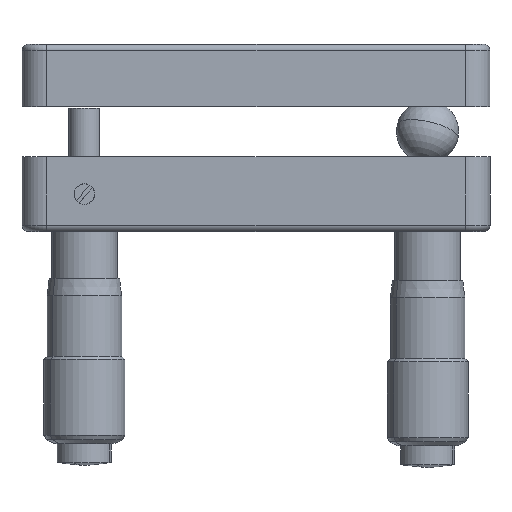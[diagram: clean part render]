
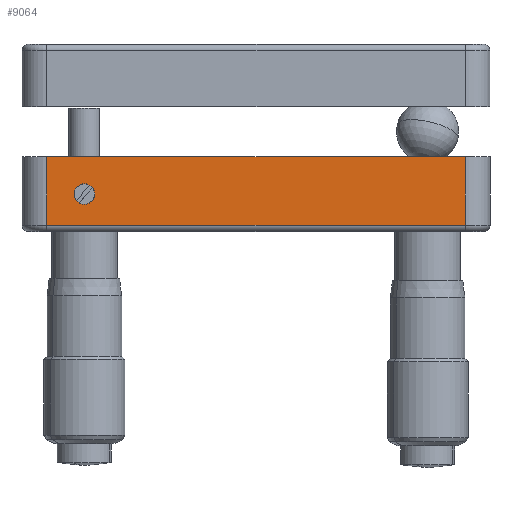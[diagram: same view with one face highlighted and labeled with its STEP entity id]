
A CAD part, left-side view. The second image highlights one B-rep face of the part: STEP entity #9064.
In plain terms, the highlighted planar face has unit normal (-1, 0, 0).
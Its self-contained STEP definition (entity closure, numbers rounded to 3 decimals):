
#489 = CARTESIAN_POINT ( 'NONE',  ( -62.5, -33.5, 6. ) ) ;
#742 = AXIS2_PLACEMENT_3D ( 'NONE', #8459, #3650, #7563 ) ;
#1414 = FACE_OUTER_BOUND ( 'NONE', #3432, .T. ) ;
#1596 = DIRECTION ( 'NONE',  ( 0., 0., 1. ) ) ;
#1647 = CARTESIAN_POINT ( 'NONE',  ( -62.5, -37.5, 6. ) ) ;
#1689 = CARTESIAN_POINT ( 'NONE',  ( -62.5, 33.5, 6. ) ) ;
#1693 = EDGE_CURVE ( 'NONE', #9165, #9040, #4300, .T. ) ;
#1944 = AXIS2_PLACEMENT_3D ( 'NONE', #2862, #10012, #1596 ) ;
#2414 = ORIENTED_EDGE ( 'NONE', *, *, #1693, .F. ) ;
#2426 = EDGE_CURVE ( 'NONE', #9652, #8070, #9383, .T. ) ;
#2509 = CARTESIAN_POINT ( 'NONE',  ( -62.5, -33.5, -5. ) ) ;
#2524 = VECTOR ( 'NONE', #7067, 1000. ) ;
#2585 = CARTESIAN_POINT ( 'NONE',  ( -62.5, -37.5, 6. ) ) ;
#2862 = CARTESIAN_POINT ( 'NONE',  ( -62.5, 27.5, 0. ) ) ;
#2941 = CARTESIAN_POINT ( 'NONE',  ( -62.5, -33.5, 6. ) ) ;
#3432 = EDGE_LOOP ( 'NONE', ( #6425, #8005, #8712, #5208 ) ) ;
#3650 = DIRECTION ( 'NONE',  ( -1., 0., 0. ) ) ;
#3681 = CARTESIAN_POINT ( 'NONE',  ( -62.5, 33.5, -5. ) ) ;
#4300 = CIRCLE ( 'NONE', #742, 1.65 ) ;
#4656 = LINE ( 'NONE', #2941, #2524 ) ;
#4695 = DIRECTION ( 'NONE',  ( 0., -1., 0. ) ) ;
#5208 = ORIENTED_EDGE ( 'NONE', *, *, #8022, .F. ) ;
#5269 = VERTEX_POINT ( 'NONE', #7019 ) ;
#5892 = DIRECTION ( 'NONE',  ( 0., -1., 0. ) ) ;
#6297 = DIRECTION ( 'NONE',  ( 0., 0., -1. ) ) ;
#6425 = ORIENTED_EDGE ( 'NONE', *, *, #2426, .T. ) ;
#6768 = VECTOR ( 'NONE', #4695, 1000. ) ;
#6775 = VECTOR ( 'NONE', #9243, 1000. ) ;
#6859 = EDGE_CURVE ( 'NONE', #5269, #10291, #4656, .T. ) ;
#6865 = EDGE_CURVE ( 'NONE', #8070, #5269, #8880, .T. ) ;
#7019 = CARTESIAN_POINT ( 'NONE',  ( -62.5, -33.5, -5. ) ) ;
#7032 = ORIENTED_EDGE ( 'NONE', *, *, #9187, .F. ) ;
#7067 = DIRECTION ( 'NONE',  ( 0., 0., 1. ) ) ;
#7202 = CARTESIAN_POINT ( 'NONE',  ( -62.5, 27.5, -1.65 ) ) ;
#7509 = AXIS2_PLACEMENT_3D ( 'NONE', #1647, #9001, #6297 ) ;
#7563 = DIRECTION ( 'NONE',  ( 0., 0., 1. ) ) ;
#7669 = CARTESIAN_POINT ( 'NONE',  ( -62.5, 33.5, 6. ) ) ;
#7801 = FACE_BOUND ( 'NONE', #9823, .T. ) ;
#7962 = CARTESIAN_POINT ( 'NONE',  ( -62.5, 27.5, 1.65 ) ) ;
#8005 = ORIENTED_EDGE ( 'NONE', *, *, #6865, .T. ) ;
#8022 = EDGE_CURVE ( 'NONE', #9652, #10291, #8264, .T. ) ;
#8070 = VERTEX_POINT ( 'NONE', #3681 ) ;
#8264 = LINE ( 'NONE', #2585, #10122 ) ;
#8459 = CARTESIAN_POINT ( 'NONE',  ( -62.5, 27.5, 0. ) ) ;
#8670 = CIRCLE ( 'NONE', #1944, 1.65 ) ;
#8712 = ORIENTED_EDGE ( 'NONE', *, *, #6859, .T. ) ;
#8880 = LINE ( 'NONE', #2509, #6768 ) ;
#9001 = DIRECTION ( 'NONE',  ( 1., 0., 0. ) ) ;
#9040 = VERTEX_POINT ( 'NONE', #7962 ) ;
#9064 = ADVANCED_FACE ( 'NONE', ( #7801, #1414 ), #9212, .F. ) ;
#9165 = VERTEX_POINT ( 'NONE', #7202 ) ;
#9187 = EDGE_CURVE ( 'NONE', #9040, #9165, #8670, .T. ) ;
#9212 = PLANE ( 'NONE',  #7509 ) ;
#9243 = DIRECTION ( 'NONE',  ( 0., 0., -1. ) ) ;
#9383 = LINE ( 'NONE', #7669, #6775 ) ;
#9652 = VERTEX_POINT ( 'NONE', #1689 ) ;
#9823 = EDGE_LOOP ( 'NONE', ( #7032, #2414 ) ) ;
#10012 = DIRECTION ( 'NONE',  ( -1., 0., 0. ) ) ;
#10122 = VECTOR ( 'NONE', #5892, 1000. ) ;
#10291 = VERTEX_POINT ( 'NONE', #489 ) ;
